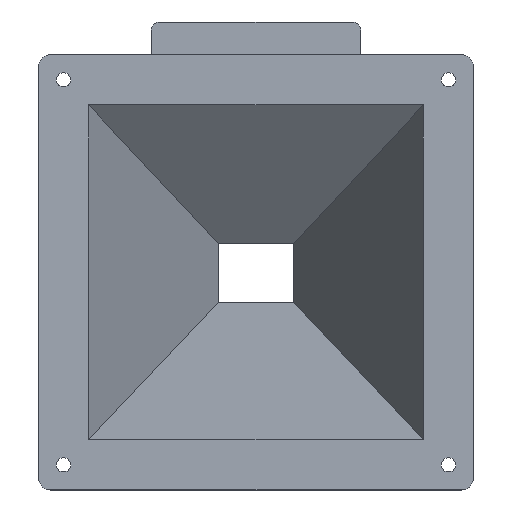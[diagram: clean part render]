
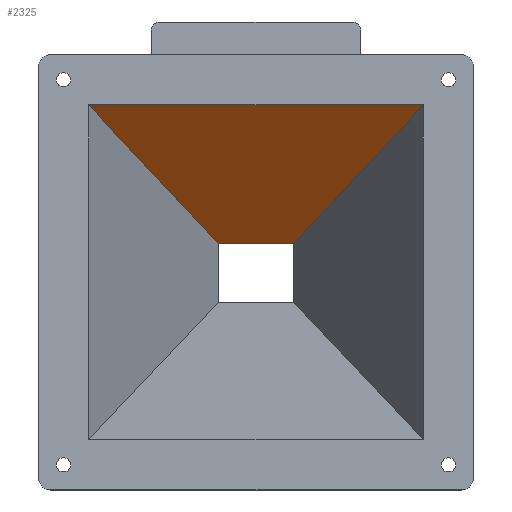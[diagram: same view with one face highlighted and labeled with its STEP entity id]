
A CAD part, top view. The second image highlights one B-rep face of the part: STEP entity #2325.
In plain terms, the highlighted free-form (B-spline) face has degree [1, 1] with [2, 2] control points.
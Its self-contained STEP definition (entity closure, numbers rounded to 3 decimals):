
#997 = PLANE('',#998);
#998 = AXIS2_PLACEMENT_3D('',#999,#1000,#1001);
#999 = CARTESIAN_POINT('',(58.,68.,440.));
#1000 = DIRECTION('',(0.,0.,1.));
#1001 = DIRECTION('',(1.,0.,0.));
#2033 = VERTEX_POINT('',#2034);
#2034 = CARTESIAN_POINT('',(150.,160.,440.));
#2048 = B_SPLINE_SURFACE_WITH_KNOTS('',1,1,(
    (#2049,#2050)
    ,(#2051,#2052
    )),.UNSPECIFIED.,.F.,.F.,.F.,(2,2),(2,2),(0.,80.015),(0.,1.
    ),.PIECEWISE_BEZIER_KNOTS.);
#2049 = CARTESIAN_POINT('',(118.993,113.007,349.98));
#2050 = CARTESIAN_POINT('',(150.007,79.993,440.02));
#2051 = CARTESIAN_POINT('',(118.993,126.993,349.98));
#2052 = CARTESIAN_POINT('',(150.007,160.007,440.02));
#2085 = VERTEX_POINT('',#2086);
#2086 = CARTESIAN_POINT('',(70.,160.,440.));
#2098 = B_SPLINE_SURFACE_WITH_KNOTS('',1,1,(
    (#2099,#2100)
    ,(#2101,#2102
    )),.UNSPECIFIED.,.F.,.F.,.F.,(2,2),(2,2),(0.,80.015),(0.,1.
    ),.PIECEWISE_BEZIER_KNOTS.);
#2099 = CARTESIAN_POINT('',(101.007,126.993,349.98));
#2100 = CARTESIAN_POINT('',(69.993,160.007,440.02));
#2101 = CARTESIAN_POINT('',(101.007,113.007,349.98));
#2102 = CARTESIAN_POINT('',(69.993,79.993,440.02));
#2109 = EDGE_CURVE('',#2085,#2033,#2110,.T.);
#2110 = SURFACE_CURVE('',#2111,(#2114,#2120),.PCURVE_S1.);
#2111 = B_SPLINE_CURVE_WITH_KNOTS('',1,(#2112,#2113),.UNSPECIFIED.,.F.,
  .F.,(2,2),(0.,1.),.PIECEWISE_BEZIER_KNOTS.);
#2112 = CARTESIAN_POINT('',(70.,160.,440.));
#2113 = CARTESIAN_POINT('',(150.,160.,440.));
#2114 = PCURVE('',#997,#2115);
#2115 = DEFINITIONAL_REPRESENTATION('',(#2116),#2119);
#2116 = B_SPLINE_CURVE_WITH_KNOTS('',1,(#2117,#2118),.UNSPECIFIED.,.F.,
  .F.,(2,2),(0.,1.),.PIECEWISE_BEZIER_KNOTS.);
#2117 = CARTESIAN_POINT('',(12.,92.));
#2118 = CARTESIAN_POINT('',(92.,92.));
#2119 = ( GEOMETRIC_REPRESENTATION_CONTEXT(2) 
PARAMETRIC_REPRESENTATION_CONTEXT() REPRESENTATION_CONTEXT('2D SPACE',''
  ) );
#2120 = PCURVE('',#2121,#2126);
#2121 = B_SPLINE_SURFACE_WITH_KNOTS('',1,1,(
    (#2122,#2123)
    ,(#2124,#2125
    )),.UNSPECIFIED.,.F.,.F.,.F.,(2,2),(2,2),(0.,80.014),(0.,1.
    ),.PIECEWISE_BEZIER_KNOTS.);
#2122 = CARTESIAN_POINT('',(118.993,126.993,349.98));
#2123 = CARTESIAN_POINT('',(150.007,160.007,440.02));
#2124 = CARTESIAN_POINT('',(101.007,126.993,349.98));
#2125 = CARTESIAN_POINT('',(69.993,160.007,440.02));
#2126 = DEFINITIONAL_REPRESENTATION('',(#2127),#2130);
#2127 = B_SPLINE_CURVE_WITH_KNOTS('',1,(#2128,#2129),.UNSPECIFIED.,.F.,
  .F.,(2,2),(0.,1.),.PIECEWISE_BEZIER_KNOTS.);
#2128 = CARTESIAN_POINT('',(80.014,1.));
#2129 = CARTESIAN_POINT('',(0.,1.));
#2130 = ( GEOMETRIC_REPRESENTATION_CONTEXT(2) 
PARAMETRIC_REPRESENTATION_CONTEXT() REPRESENTATION_CONTEXT('2D SPACE',''
  ) );
#2222 = PLANE('',#2223);
#2223 = AXIS2_PLACEMENT_3D('',#2224,#2225,#2226);
#2224 = CARTESIAN_POINT('',(101.,127.,339.48));
#2225 = DIRECTION('',(0.,1.,0.));
#2226 = DIRECTION('',(0.,0.,1.));
#2286 = VERTEX_POINT('',#2287);
#2287 = CARTESIAN_POINT('',(119.,127.,350.));
#2305 = EDGE_CURVE('',#2286,#2033,#2306,.T.);
#2306 = SURFACE_CURVE('',#2307,(#2310,#2317),.PCURVE_S1.);
#2307 = B_SPLINE_CURVE_WITH_KNOTS('',1,(#2308,#2309),.UNSPECIFIED.,.F.,
  .F.,(2,2),(0.,1.),.PIECEWISE_BEZIER_KNOTS.);
#2308 = CARTESIAN_POINT('',(118.993,126.993,349.98));
#2309 = CARTESIAN_POINT('',(150.007,160.007,440.02));
#2310 = PCURVE('',#2048,#2311);
#2311 = DEFINITIONAL_REPRESENTATION('',(#2312),#2316);
#2312 = LINE('',#2313,#2314);
#2313 = CARTESIAN_POINT('',(80.015,0.));
#2314 = VECTOR('',#2315,1.);
#2315 = DIRECTION('',(0.,1.));
#2316 = ( GEOMETRIC_REPRESENTATION_CONTEXT(2) 
PARAMETRIC_REPRESENTATION_CONTEXT() REPRESENTATION_CONTEXT('2D SPACE',''
  ) );
#2317 = PCURVE('',#2121,#2318);
#2318 = DEFINITIONAL_REPRESENTATION('',(#2319),#2323);
#2319 = LINE('',#2320,#2321);
#2320 = CARTESIAN_POINT('',(0.,0.));
#2321 = VECTOR('',#2322,1.);
#2322 = DIRECTION('',(0.,1.));
#2323 = ( GEOMETRIC_REPRESENTATION_CONTEXT(2) 
PARAMETRIC_REPRESENTATION_CONTEXT() REPRESENTATION_CONTEXT('2D SPACE',''
  ) );
#2325 = ADVANCED_FACE('',(#2326),#2121,.F.);
#2326 = FACE_BOUND('',#2327,.F.);
#2327 = EDGE_LOOP('',(#2328,#2329,#2349,#2369));
#2328 = ORIENTED_EDGE('',*,*,#2305,.F.);
#2329 = ORIENTED_EDGE('',*,*,#2330,.F.);
#2330 = EDGE_CURVE('',#2331,#2286,#2333,.T.);
#2331 = VERTEX_POINT('',#2332);
#2332 = CARTESIAN_POINT('',(101.,127.,350.));
#2333 = SURFACE_CURVE('',#2334,(#2337,#2343),.PCURVE_S1.);
#2334 = B_SPLINE_CURVE_WITH_KNOTS('',1,(#2335,#2336),.UNSPECIFIED.,.F.,
  .F.,(2,2),(0.,1.),.PIECEWISE_BEZIER_KNOTS.);
#2335 = CARTESIAN_POINT('',(101.,127.,350.));
#2336 = CARTESIAN_POINT('',(119.,127.,350.));
#2337 = PCURVE('',#2121,#2338);
#2338 = DEFINITIONAL_REPRESENTATION('',(#2339),#2342);
#2339 = B_SPLINE_CURVE_WITH_KNOTS('',1,(#2340,#2341),.UNSPECIFIED.,.F.,
  .F.,(2,2),(0.,1.),.PIECEWISE_BEZIER_KNOTS.);
#2340 = CARTESIAN_POINT('',(80.014,0.));
#2341 = CARTESIAN_POINT('',(0.,0.));
#2342 = ( GEOMETRIC_REPRESENTATION_CONTEXT(2) 
PARAMETRIC_REPRESENTATION_CONTEXT() REPRESENTATION_CONTEXT('2D SPACE',''
  ) );
#2343 = PCURVE('',#2222,#2344);
#2344 = DEFINITIONAL_REPRESENTATION('',(#2345),#2348);
#2345 = B_SPLINE_CURVE_WITH_KNOTS('',1,(#2346,#2347),.UNSPECIFIED.,.F.,
  .F.,(2,2),(0.,1.),.PIECEWISE_BEZIER_KNOTS.);
#2346 = CARTESIAN_POINT('',(10.52,0.));
#2347 = CARTESIAN_POINT('',(10.52,18.));
#2348 = ( GEOMETRIC_REPRESENTATION_CONTEXT(2) 
PARAMETRIC_REPRESENTATION_CONTEXT() REPRESENTATION_CONTEXT('2D SPACE',''
  ) );
#2349 = ORIENTED_EDGE('',*,*,#2350,.T.);
#2350 = EDGE_CURVE('',#2331,#2085,#2351,.T.);
#2351 = SURFACE_CURVE('',#2352,(#2355,#2362),.PCURVE_S1.);
#2352 = B_SPLINE_CURVE_WITH_KNOTS('',1,(#2353,#2354),.UNSPECIFIED.,.F.,
  .F.,(2,2),(0.,1.),.PIECEWISE_BEZIER_KNOTS.);
#2353 = CARTESIAN_POINT('',(101.007,126.993,349.98));
#2354 = CARTESIAN_POINT('',(69.993,160.007,440.02));
#2355 = PCURVE('',#2121,#2356);
#2356 = DEFINITIONAL_REPRESENTATION('',(#2357),#2361);
#2357 = LINE('',#2358,#2359);
#2358 = CARTESIAN_POINT('',(80.014,0.));
#2359 = VECTOR('',#2360,1.);
#2360 = DIRECTION('',(0.,1.));
#2361 = ( GEOMETRIC_REPRESENTATION_CONTEXT(2) 
PARAMETRIC_REPRESENTATION_CONTEXT() REPRESENTATION_CONTEXT('2D SPACE',''
  ) );
#2362 = PCURVE('',#2098,#2363);
#2363 = DEFINITIONAL_REPRESENTATION('',(#2364),#2368);
#2364 = LINE('',#2365,#2366);
#2365 = CARTESIAN_POINT('',(0.,0.));
#2366 = VECTOR('',#2367,1.);
#2367 = DIRECTION('',(0.,1.));
#2368 = ( GEOMETRIC_REPRESENTATION_CONTEXT(2) 
PARAMETRIC_REPRESENTATION_CONTEXT() REPRESENTATION_CONTEXT('2D SPACE',''
  ) );
#2369 = ORIENTED_EDGE('',*,*,#2109,.T.);
